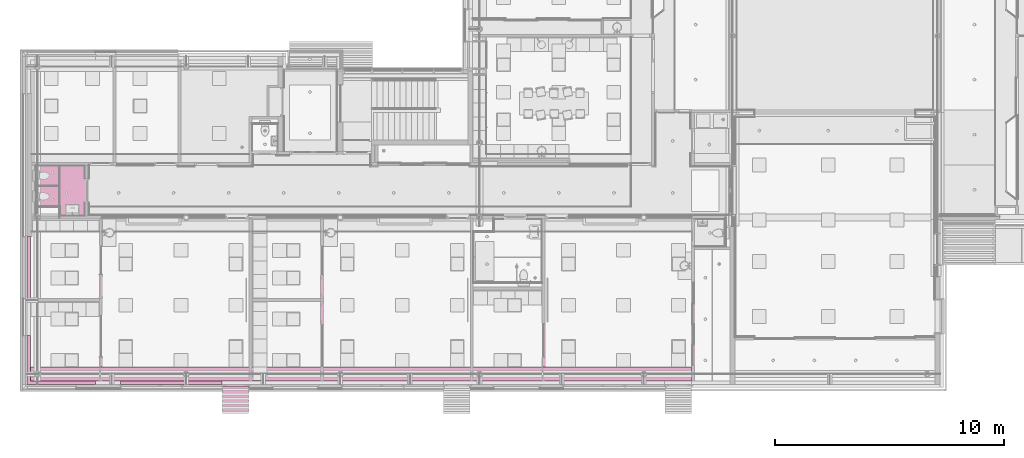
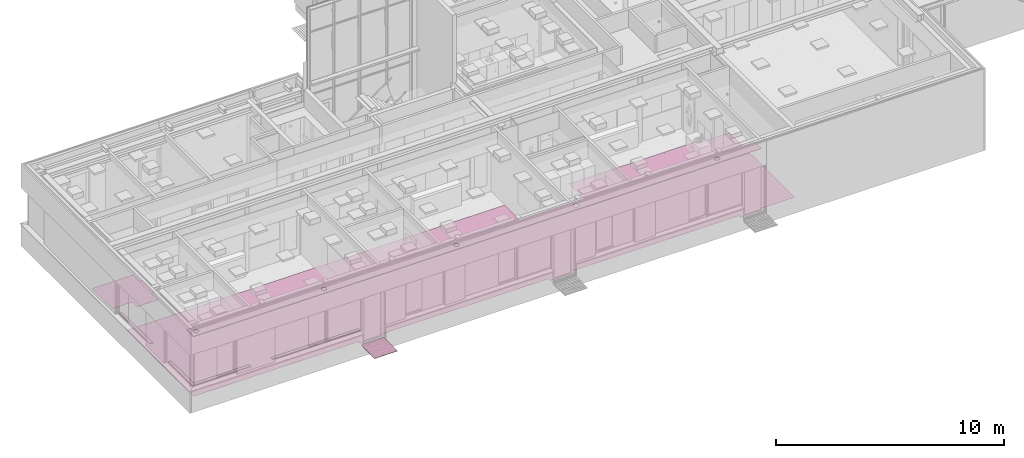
# One storey, part 313 of 347: 7 furnishings.
"""IFC2X3 building model written with IfcOpenShell, lengths in millimetres."""

from ifc_helpers import new_model, entity, si_unit, converted_unit, derived_unit, money_unit, direction, frame, origin_with_axes, place, context, subcontext, project, spatial, faceted_brep, material, type_object, element, save


model = new_model("IFC2X3")

# Units and contexts
model_context = context("Model", 3, precision=0.01, world=origin_with_axes(), true_north=direction((0.0, 1.0)))
plan_context = context("Plan", 3, precision=0.01, world=origin_with_axes(), true_north=direction((0.0, 1.0)))
body_context = subcontext(model_context, "Body", "Model", "MODEL_VIEW")
ifc_project = project(units=[si_unit("LENGTHUNIT", "METRE", prefix="MILLI"), si_unit("AREAUNIT", "SQUARE_METRE"), si_unit("VOLUMEUNIT", "CUBIC_METRE"), converted_unit("PLANEANGLEUNIT", "DEGREE", entity("IfcPlaneAngleMeasure", 0.0174532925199), si_unit("PLANEANGLEUNIT", "RADIAN"), dimensions=[0, 0, 0, 0, 0, 0, 0]), money_unit("EUR"), converted_unit("TIMEUNIT", "Year", entity("IfcTimeMeasure", 31556926.0), si_unit("TIMEUNIT", "SECOND"), dimensions=[0, 0, 1, 0, 0, 0, 0]), si_unit("MASSUNIT", "GRAM", prefix="KILO"), si_unit("THERMODYNAMICTEMPERATUREUNIT", "DEGREE_CELSIUS"), si_unit("LUMINOUSINTENSITYUNIT", "LUMEN"), si_unit("ENERGYUNIT", "JOULE", prefix="MEGA"), derived_unit("THERMALCONDUCTANCEUNIT", [(si_unit("POWERUNIT", "WATT"), 1), (si_unit("LENGTHUNIT", "METRE"), -1), (si_unit("THERMODYNAMICTEMPERATUREUNIT", "KELVIN"), -1)]), derived_unit("SPECIFICHEATCAPACITYUNIT", [(si_unit("ENERGYUNIT", "JOULE"), 1), (si_unit("MASSUNIT", "GRAM", prefix="KILO"), -1), (si_unit("THERMODYNAMICTEMPERATUREUNIT", "KELVIN"), -1)]), derived_unit("MASSDENSITYUNIT", [(si_unit("MASSUNIT", "GRAM", prefix="KILO"), 1), (si_unit("VOLUMEUNIT", "CUBIC_METRE"), -1)])], contexts=[model_context, plan_context])

# Site, building, storey
site_placement = place(None, origin_with_axes())
site = spatial("IfcSite", under=ifc_project, at=site_placement, Name="Site", CompositionType="ELEMENT")
building_placement = place(site_placement, origin_with_axes())
building = spatial("IfcBuilding", under=site, at=building_placement, Name="Naam gebouw", CompositionType="ELEMENT")
storey_placement = place(building_placement, origin_with_axes())
storey = spatial("IfcBuildingStorey", under=building, at=storey_placement, Name="begane grond", CompositionType="ELEMENT", Elevation=0.0)

# Furnishings
ifc_material_1 = material(Name="ALG - LICHTE SCHEIDINGSWAND")
furniture_type_1 = type_object("IfcFurnitureType", Name="44 koof plaf 50", AssemblyPlace="NOTDEFINED")
furnishing_1_placement = place(storey_placement, frame((4999.99997201, 4999.99997201, 3200.0), z_axis=(0.0, 0.0, 1.0), x_axis=(1.0, 0.0, 0.0)))
element("IfcFurnishingElement", 1, at=furnishing_1_placement, inside=storey, type_object=furniture_type_1, material=ifc_material_1, Name="72_75 vaste inrichting", ObjectType="SHELF", context=body_context, shape_type="Brep", body=[
    faceted_brep([(28825.000028, 600.0, 0.0), (28825.000028, 0.0, 0.0), (0.0, 0.0, 0.0), (0.0, 600.0, 0.0), (19670.5789267, 223.778399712, 0.0), (19685.1434721, 246.957740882, 0.0), (19694.1849653, 272.796843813, 0.0), (19697.250028, 300.00002799, 0.0), (19694.1849653, 327.203212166, 0.0), (19685.1434721, 353.042315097, 0.0), (19670.5789267, 376.221656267, 0.0), (19651.2216563, 395.578926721, 0.0), (19628.0423151, 410.143472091, 0.0), (19602.2032122, 419.184965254, 0.0), (19575.000028, 422.25002799, 0.0), (19547.7968438, 419.184965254, 0.0), (19521.9577409, 410.143472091, 0.0), (19498.7783997, 395.578926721, 0.0), (19479.4211293, 376.221656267, 0.0), (19464.8565839, 353.042315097, 0.0), (19455.8150907, 327.203212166, 0.0), (19452.750028, 300.00002799, 0.0), (19455.8150907, 272.796843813, 0.0), (19464.8565839, 246.957740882, 0.0), (19479.4211293, 223.778399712, 0.0), (19498.7783997, 204.421129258, 0.0), (19521.9577409, 189.856583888, 0.0), (19547.7968438, 180.815090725, 0.0), (19575.000028, 177.75002799, 0.0), (19602.2032122, 180.815090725, 0.0), (19628.0423151, 189.856583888, 0.0), (19651.2216563, 204.421129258, 0.0), (26833.0789267, 223.778399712, 0.0), (26847.6434721, 246.957740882, 0.0), (26856.6849653, 272.796843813, 0.0), (26859.750028, 300.00002799, 0.0), (26856.6849653, 327.203212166, 0.0), (26847.6434721, 353.042315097, 0.0), (26833.0789267, 376.221656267, 0.0), (26813.7216563, 395.578926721, 0.0), (26790.5423151, 410.143472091, 0.0), (26764.7032122, 419.184965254, 0.0), (26737.500028, 422.25002799, 0.0), (26710.2968438, 419.184965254, 0.0), (26684.4577409, 410.143472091, 0.0), (26661.2783997, 395.578926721, 0.0), (26641.9211293, 376.221656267, 0.0), (26627.3565839, 353.042315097, 0.0), (26618.3150907, 327.203212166, 0.0), (26615.250028, 300.00002799, 0.0), (26618.3150907, 272.796843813, 0.0), (26627.3565839, 246.957740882, 0.0), (26641.9211293, 223.778399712, 0.0), (26661.2783997, 204.421129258, 0.0), (26684.4577409, 189.856583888, 0.0), (26710.2968438, 180.815090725, 0.0), (26737.500028, 177.75002799, 0.0), (26764.7032122, 180.815090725, 0.0), (26790.5423151, 189.856583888, 0.0), (26813.7216563, 204.421129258, 0.0), (13600.5789267, 223.778399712, 0.0), (13615.1434721, 246.957740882, 0.0), (13624.1849653, 272.796843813, 0.0), (13627.250028, 300.00002799, 0.0), (13624.1849653, 327.203212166, 0.0), (13615.1434721, 353.042315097, 0.0), (13600.5789267, 376.221656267, 0.0), (13581.2216563, 395.578926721, 0.0), (13558.0423151, 410.143472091, 0.0), (13532.2032122, 419.184965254, 0.0), (13505.000028, 422.25002799, 0.0), (13477.7968438, 419.184965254, 0.0), (13451.9577409, 410.143472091, 0.0), (13428.7783997, 395.578926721, 0.0), (13409.4211293, 376.221656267, 0.0), (13394.8565839, 353.042315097, 0.0), (13385.8150907, 327.203212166, 0.0), (13382.750028, 300.00002799, 0.0), (13385.8150907, 272.796843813, 0.0), (13394.8565839, 246.957740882, 0.0), (13409.4211293, 223.778399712, 0.0), (13428.7783997, 204.421129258, 0.0), (13451.9577409, 189.856583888, 0.0), (13477.7968438, 180.815090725, 0.0), (13505.000028, 177.75002799, 0.0), (13532.2032122, 180.815090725, 0.0), (13558.0423151, 189.856583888, 0.0), (13581.2216563, 204.421129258, 0.0), (6883.07892672, 223.778399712, 0.0), (6897.64347209, 246.957740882, 0.0), (6906.68496525, 272.796843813, 0.0), (6909.75002799, 300.00002799, 0.0), (6906.68496525, 327.203212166, 0.0), (6897.64347209, 353.042315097, 0.0), (6883.07892672, 376.221656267, 0.0), (6863.72165627, 395.578926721, 0.0), (6840.5423151, 410.143472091, 0.0), (6814.70321217, 419.184965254, 0.0), (6787.50002799, 422.25002799, 0.0), (6760.29684381, 419.184965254, 0.0), (6734.45774088, 410.143472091, 0.0), (6711.27839971, 395.578926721, 0.0), (6691.92112926, 376.221656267, 0.0), (6677.35658389, 353.042315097, 0.0), (6668.31509073, 327.203212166, 0.0), (6665.25002799, 300.00002799, 0.0), (6668.31509073, 272.796843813, 0.0), (6677.35658389, 246.957740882, 0.0), (6691.92112926, 223.778399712, 0.0), (6711.27839971, 204.421129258, 0.0), (6734.45774088, 189.856583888, 0.0), (6760.29684381, 180.815090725, 0.0), (6787.50002799, 177.75002799, 0.0), (6814.70321217, 180.815090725, 0.0), (6840.5423151, 189.856583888, 0.0), (6863.72165627, 204.421129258, 0.0), (395.578926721, 223.778399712, 0.0), (410.143472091, 246.957740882, 0.0), (419.184965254, 272.796843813, 0.0), (422.25002799, 300.00002799, 0.0), (419.184965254, 327.203212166, 0.0), (410.143472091, 353.042315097, 0.0), (395.578926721, 376.221656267, 0.0), (376.221656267, 395.578926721, 0.0), (353.042315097, 410.143472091, 0.0), (327.203212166, 419.184965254, 0.0), (300.00002799, 422.25002799, 0.0), (272.796843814, 419.184965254, 0.0), (246.957740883, 410.143472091, 0.0), (223.778399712, 395.578926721, 0.0), (204.421129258, 376.221656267, 0.0), (189.856583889, 353.042315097, 0.0), (180.815090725, 327.203212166, 0.0), (177.75002799, 300.00002799, 0.0), (180.815090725, 272.796843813, 0.0), (189.856583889, 246.957740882, 0.0), (204.421129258, 223.778399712, 0.0), (223.778399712, 204.421129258, 0.0), (246.957740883, 189.856583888, 0.0), (272.796843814, 180.815090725, 0.0), (300.00002799, 177.75002799, 0.0), (327.203212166, 180.815090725, 0.0), (353.042315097, 189.856583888, 0.0), (376.221656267, 204.421129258, 0.0), (28825.000028, 600.0, 12.0), (28825.000028, 0.0, 12.0), (0.0, 0.0, 12.0), (0.0, 600.0, 12.0), (19670.5789267, 223.778399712, 12.0), (19685.1434721, 246.957740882, 12.0), (19694.1849653, 272.796843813, 12.0), (19697.250028, 300.00002799, 12.0), (19694.1849653, 327.203212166, 12.0), (19685.1434721, 353.042315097, 12.0), (19670.5789267, 376.221656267, 12.0), (19651.2216563, 395.578926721, 12.0), (19628.0423151, 410.143472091, 12.0), (19602.2032122, 419.184965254, 12.0), (19575.000028, 422.25002799, 12.0), (19547.7968438, 419.184965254, 12.0), (19521.9577409, 410.143472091, 12.0), (19498.7783997, 395.578926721, 12.0), (19479.4211293, 376.221656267, 12.0), (19464.8565839, 353.042315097, 12.0), (19455.8150907, 327.203212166, 12.0), (19452.750028, 300.00002799, 12.0), (19455.8150907, 272.796843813, 12.0), (19464.8565839, 246.957740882, 12.0), (19479.4211293, 223.778399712, 12.0), (19498.7783997, 204.421129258, 12.0), (19521.9577409, 189.856583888, 12.0), (19547.7968438, 180.815090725, 12.0), (19575.000028, 177.75002799, 12.0), (19602.2032122, 180.815090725, 12.0), (19628.0423151, 189.856583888, 12.0), (19651.2216563, 204.421129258, 12.0), (26833.0789267, 223.778399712, 12.0), (26847.6434721, 246.957740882, 12.0), (26856.6849653, 272.796843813, 12.0), (26859.750028, 300.00002799, 12.0), (26856.6849653, 327.203212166, 12.0), (26847.6434721, 353.042315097, 12.0), (26833.0789267, 376.221656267, 12.0), (26813.7216563, 395.578926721, 12.0), (26790.5423151, 410.143472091, 12.0), (26764.7032122, 419.184965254, 12.0), (26737.500028, 422.25002799, 12.0), (26710.2968438, 419.184965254, 12.0), (26684.4577409, 410.143472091, 12.0), (26661.2783997, 395.578926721, 12.0), (26641.9211293, 376.221656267, 12.0), (26627.3565839, 353.042315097, 12.0), (26618.3150907, 327.203212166, 12.0), (26615.250028, 300.00002799, 12.0), (26618.3150907, 272.796843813, 12.0), (26627.3565839, 246.957740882, 12.0), (26641.9211293, 223.778399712, 12.0), (26661.2783997, 204.421129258, 12.0), (26684.4577409, 189.856583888, 12.0), (26710.2968438, 180.815090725, 12.0), (26737.500028, 177.75002799, 12.0), (26764.7032122, 180.815090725, 12.0), (26790.5423151, 189.856583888, 12.0), (26813.7216563, 204.421129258, 12.0), (13600.5789267, 223.778399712, 12.0), (13615.1434721, 246.957740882, 12.0), (13624.1849653, 272.796843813, 12.0), (13627.250028, 300.00002799, 12.0), (13624.1849653, 327.203212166, 12.0), (13615.1434721, 353.042315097, 12.0), (13600.5789267, 376.221656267, 12.0), (13581.2216563, 395.578926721, 12.0), (13558.0423151, 410.143472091, 12.0), (13532.2032122, 419.184965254, 12.0), (13505.000028, 422.25002799, 12.0), (13477.7968438, 419.184965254, 12.0), (13451.9577409, 410.143472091, 12.0), (13428.7783997, 395.578926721, 12.0), (13409.4211293, 376.221656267, 12.0), (13394.8565839, 353.042315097, 12.0), (13385.8150907, 327.203212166, 12.0), (13382.750028, 300.00002799, 12.0), (13385.8150907, 272.796843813, 12.0), (13394.8565839, 246.957740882, 12.0), (13409.4211293, 223.778399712, 12.0), (13428.7783997, 204.421129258, 12.0), (13451.9577409, 189.856583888, 12.0), (13477.7968438, 180.815090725, 12.0), (13505.000028, 177.75002799, 12.0), (13532.2032122, 180.815090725, 12.0), (13558.0423151, 189.856583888, 12.0), (13581.2216563, 204.421129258, 12.0), (6883.07892672, 223.778399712, 12.0), (6897.64347209, 246.957740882, 12.0), (6906.68496525, 272.796843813, 12.0), (6909.75002799, 300.00002799, 12.0), (6906.68496525, 327.203212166, 12.0), (6897.64347209, 353.042315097, 12.0), (6883.07892672, 376.221656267, 12.0), (6863.72165627, 395.578926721, 12.0), (6840.5423151, 410.143472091, 12.0), (6814.70321217, 419.184965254, 12.0), (6787.50002799, 422.25002799, 12.0), (6760.29684381, 419.184965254, 12.0), (6734.45774088, 410.143472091, 12.0), (6711.27839971, 395.578926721, 12.0), (6691.92112926, 376.221656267, 12.0), (6677.35658389, 353.042315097, 12.0), (6668.31509073, 327.203212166, 12.0), (6665.25002799, 300.00002799, 12.0), (6668.31509073, 272.796843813, 12.0), (6677.35658389, 246.957740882, 12.0), (6691.92112926, 223.778399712, 12.0), (6711.27839971, 204.421129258, 12.0), (6734.45774088, 189.856583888, 12.0), (6760.29684381, 180.815090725, 12.0), (6787.50002799, 177.75002799, 12.0), (6814.70321217, 180.815090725, 12.0), (6840.5423151, 189.856583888, 12.0), (6863.72165627, 204.421129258, 12.0), (395.578926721, 223.778399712, 12.0), (410.143472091, 246.957740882, 12.0), (419.184965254, 272.796843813, 12.0), (422.25002799, 300.00002799, 12.0), (419.184965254, 327.203212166, 12.0), (410.143472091, 353.042315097, 12.0), (395.578926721, 376.221656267, 12.0), (376.221656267, 395.578926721, 12.0), (353.042315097, 410.143472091, 12.0), (327.203212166, 419.184965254, 12.0), (300.00002799, 422.25002799, 12.0), (272.796843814, 419.184965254, 12.0), (246.957740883, 410.143472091, 12.0), (223.778399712, 395.578926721, 12.0), (204.421129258, 376.221656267, 12.0), (189.856583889, 353.042315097, 12.0), (180.815090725, 327.203212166, 12.0), (177.75002799, 300.00002799, 12.0), (180.815090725, 272.796843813, 12.0), (189.856583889, 246.957740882, 12.0), (204.421129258, 223.778399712, 12.0), (223.778399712, 204.421129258, 12.0), (246.957740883, 189.856583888, 12.0), (272.796843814, 180.815090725, 12.0), (300.00002799, 177.75002799, 12.0), (327.203212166, 180.815090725, 12.0), (353.042315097, 189.856583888, 12.0), (376.221656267, 204.421129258, 12.0)], [[[0, 1, 2, 3], [4, 5, 6, 7, 8, 9, 10, 11, 12, 13, 14, 15, 16, 17, 18, 19, 20, 21, 22, 23, 24, 25, 26, 27, 28, 29, 30, 31], [32, 33, 34, 35, 36, 37, 38, 39, 40, 41, 42, 43, 44, 45, 46, 47, 48, 49, 50, 51, 52, 53, 54, 55, 56, 57, 58, 59], [60, 61, 62, 63, 64, 65, 66, 67, 68, 69, 70, 71, 72, 73, 74, 75, 76, 77, 78, 79, 80, 81, 82, 83, 84, 85, 86, 87], [88, 89, 90, 91, 92, 93, 94, 95, 96, 97, 98, 99, 100, 101, 102, 103, 104, 105, 106, 107, 108, 109, 110, 111, 112, 113, 114, 115], [116, 117, 118, 119, 120, 121, 122, 123, 124, 125, 126, 127, 128, 129, 130, 131, 132, 133, 134, 135, 136, 137, 138, 139, 140, 141, 142, 143]], [[144, 145, 1, 0]], [[145, 146, 2, 1]], [[146, 147, 3, 2]], [[147, 144, 0, 3]], [[4, 148, 149, 5]], [[5, 149, 150, 6]], [[6, 150, 151, 7]], [[7, 151, 152, 8]], [[8, 152, 153, 9]], [[9, 153, 154, 10]], [[10, 154, 155, 11]], [[11, 155, 156, 12]], [[12, 156, 157, 13]], [[13, 157, 158, 14]], [[14, 158, 159, 15]], [[15, 159, 160, 16]], [[16, 160, 161, 17]], [[17, 161, 162, 18]], [[18, 162, 163, 19]], [[19, 163, 164, 20]], [[20, 164, 165, 21]], [[21, 165, 166, 22]], [[22, 166, 167, 23]], [[23, 167, 168, 24]], [[24, 168, 169, 25]], [[25, 169, 170, 26]], [[26, 170, 171, 27]], [[27, 171, 172, 28]], [[28, 172, 173, 29]], [[29, 173, 174, 30]], [[30, 174, 175, 31]], [[31, 175, 148, 4]], [[32, 176, 177, 33]], [[33, 177, 178, 34]], [[34, 178, 179, 35]], [[35, 179, 180, 36]], [[36, 180, 181, 37]], [[37, 181, 182, 38]], [[38, 182, 183, 39]], [[39, 183, 184, 40]], [[40, 184, 185, 41]], [[41, 185, 186, 42]], [[42, 186, 187, 43]], [[43, 187, 188, 44]], [[44, 188, 189, 45]], [[45, 189, 190, 46]], [[46, 190, 191, 47]], [[47, 191, 192, 48]], [[48, 192, 193, 49]], [[49, 193, 194, 50]], [[50, 194, 195, 51]], [[51, 195, 196, 52]], [[52, 196, 197, 53]], [[53, 197, 198, 54]], [[54, 198, 199, 55]], [[55, 199, 200, 56]], [[56, 200, 201, 57]], [[57, 201, 202, 58]], [[58, 202, 203, 59]], [[59, 203, 176, 32]], [[60, 204, 205, 61]], [[61, 205, 206, 62]], [[62, 206, 207, 63]], [[63, 207, 208, 64]], [[64, 208, 209, 65]], [[65, 209, 210, 66]], [[66, 210, 211, 67]], [[67, 211, 212, 68]], [[68, 212, 213, 69]], [[69, 213, 214, 70]], [[70, 214, 215, 71]], [[71, 215, 216, 72]], [[72, 216, 217, 73]], [[73, 217, 218, 74]], [[74, 218, 219, 75]], [[75, 219, 220, 76]], [[76, 220, 221, 77]], [[77, 221, 222, 78]], [[78, 222, 223, 79]], [[79, 223, 224, 80]], [[80, 224, 225, 81]], [[81, 225, 226, 82]], [[82, 226, 227, 83]], [[83, 227, 228, 84]], [[84, 228, 229, 85]], [[85, 229, 230, 86]], [[86, 230, 231, 87]], [[87, 231, 204, 60]], [[88, 232, 233, 89]], [[89, 233, 234, 90]], [[90, 234, 235, 91]], [[91, 235, 236, 92]], [[92, 236, 237, 93]], [[93, 237, 238, 94]], [[94, 238, 239, 95]], [[95, 239, 240, 96]], [[96, 240, 241, 97]], [[97, 241, 242, 98]], [[98, 242, 243, 99]], [[99, 243, 244, 100]], [[100, 244, 245, 101]], [[101, 245, 246, 102]], [[102, 246, 247, 103]], [[103, 247, 248, 104]], [[104, 248, 249, 105]], [[105, 249, 250, 106]], [[106, 250, 251, 107]], [[107, 251, 252, 108]], [[108, 252, 253, 109]], [[109, 253, 254, 110]], [[110, 254, 255, 111]], [[111, 255, 256, 112]], [[112, 256, 257, 113]], [[113, 257, 258, 114]], [[114, 258, 259, 115]], [[115, 259, 232, 88]], [[116, 260, 261, 117]], [[117, 261, 262, 118]], [[118, 262, 263, 119]], [[119, 263, 264, 120]], [[120, 264, 265, 121]], [[121, 265, 266, 122]], [[122, 266, 267, 123]], [[123, 267, 268, 124]], [[124, 268, 269, 125]], [[125, 269, 270, 126]], [[126, 270, 271, 127]], [[127, 271, 272, 128]], [[128, 272, 273, 129]], [[129, 273, 274, 130]], [[130, 274, 275, 131]], [[131, 275, 276, 132]], [[132, 276, 277, 133]], [[133, 277, 278, 134]], [[134, 278, 279, 135]], [[135, 279, 280, 136]], [[136, 280, 281, 137]], [[137, 281, 282, 138]], [[138, 282, 283, 139]], [[139, 283, 284, 140]], [[140, 284, 285, 141]], [[141, 285, 286, 142]], [[142, 286, 287, 143]], [[143, 287, 260, 116]], [[144, 147, 146, 145], [154, 153, 152, 151, 150, 149, 148, 175, 174, 173, 172, 171, 170, 169, 168, 167, 166, 165, 164, 163, 162, 161, 160, 159, 158, 157, 156, 155], [182, 181, 180, 179, 178, 177, 176, 203, 202, 201, 200, 199, 198, 197, 196, 195, 194, 193, 192, 191, 190, 189, 188, 187, 186, 185, 184, 183], [210, 209, 208, 207, 206, 205, 204, 231, 230, 229, 228, 227, 226, 225, 224, 223, 222, 221, 220, 219, 218, 217, 216, 215, 214, 213, 212, 211], [238, 237, 236, 235, 234, 233, 232, 259, 258, 257, 256, 255, 254, 253, 252, 251, 250, 249, 248, 247, 246, 245, 244, 243, 242, 241, 240, 239], [266, 265, 264, 263, 262, 261, 260, 287, 286, 285, 284, 283, 282, 281, 280, 279, 278, 277, 276, 275, 274, 273, 272, 271, 270, 269, 268, 267]]]),
])
ifc_material_2 = material(Name="43 fresco Barbados 3858")
furniture_type_2 = type_object("IfcFurnitureType", Name="43 fresco Barbados 3858 2", AssemblyPlace="NOTDEFINED")
furnishing_2_placement = place(storey_placement, frame((5000.0, 10862.5, 0.0), z_axis=(0.0, 0.0, 1.0), x_axis=(1.0, 0.0, 0.0)))
element("IfcFurnishingElement", 2, at=furnishing_2_placement, inside=storey, type_object=furniture_type_2, material=ifc_material_2, Name="72_43 marmoleum", ObjectType="SHELF", context=body_context, shape_type="Brep", body=[
    faceted_brep([(0.0, 0.0, 2.0), (0.0, 0.0, 0.0), (0.0, -5862.5, 0.0), (0.0, -5862.5, 2.0), (19175.0, 0.0, 2.0), (19175.0, 0.0, 0.0), (19175.0, -1897.5, 0.0), (22425.0, -1897.5, 0.0), (22425.0, 0.0, 0.0), (28825.0, 0.0, 0.0), (28825.0, -137.5, 0.0), (30495.0, -137.5, 0.0), (30495.0, -5862.5, 0.0), (28825.0, -5862.5, 0.0), (28825.0, -6012.49997945, 0.0), (27647.4504524, -6012.49997945, 0.0), (27647.4504524, -5862.5, 0.0), (19175.0, -5862.5, 0.0), (19175.0, -6012.49997201, 0.0), (17998.0, -6012.49997201, 0.0), (17998.0, -5862.5, 0.0), (9525.0, -5862.5, 0.0), (9525.0, -6012.5, 0.0), (8348.0, -6012.5, 0.0), (8348.0, -5862.5, 0.0), (8348.0, -5862.5, 2.0), (8348.0, -6012.5, 2.0), (9525.0, -6012.5, 2.0), (9525.0, -5862.5, 2.0), (17998.0, -5862.5, 2.0), (17998.0, -6012.49997201, 2.0), (19175.0, -6012.49997201, 2.0), (19175.0, -5862.5, 2.0), (27647.4504524, -5862.5, 2.0), (27647.4504524, -6012.49997945, 2.0), (28825.0, -6012.49997945, 2.0), (28825.0, -5862.5, 2.0), (30495.0, -5862.5, 2.0), (30495.0, -137.5, 2.0), (28825.0, -137.5, 2.0), (28825.0, 0.0, 2.0), (22425.0, 0.0, 2.0), (22425.0, -1897.5, 2.0), (19175.0, -1897.5, 2.0)], [[[0, 1, 2, 3]], [[4, 5, 1, 0]], [[2, 1, 5, 6, 7, 8, 9, 10, 11, 12, 13, 14, 15, 16, 17, 18, 19, 20, 21, 22, 23, 24]], [[3, 2, 24, 25]], [[4, 0, 3, 25, 26, 27, 28, 29, 30, 31, 32, 33, 34, 35, 36, 37, 38, 39, 40, 41, 42, 43]], [[43, 6, 5, 4]], [[42, 7, 6, 43]], [[41, 8, 7, 42]], [[40, 9, 8, 41]], [[39, 10, 9, 40]], [[38, 11, 10, 39]], [[37, 12, 11, 38]], [[36, 13, 12, 37]], [[35, 14, 13, 36]], [[34, 15, 14, 35]], [[33, 16, 15, 34]], [[32, 17, 16, 33]], [[31, 18, 17, 32]], [[30, 19, 18, 31]], [[29, 20, 19, 30]], [[28, 21, 20, 29]], [[27, 22, 21, 28]], [[26, 23, 22, 27]], [[25, 24, 23, 26]]]),
])
ifc_material_3 = material(Name="42 vensterbank")
furniture_type_3 = type_object("IfcFurnitureType", Name="42 vensterbank 20", AssemblyPlace="NOTDEFINED")
furnishing_3_placement = place(storey_placement, frame((4849.9972598, 8590.0, 720.0), z_axis=(0.0, 0.0, 1.0), x_axis=(1.0, 0.0, 0.0)))
element("IfcFurnishingElement", 3, at=furnishing_3_placement, inside=storey, type_object=furniture_type_3, material=ifc_material_3, Name="72_73 vaste inrichting", ObjectType="SHELF", context=body_context, shape_type="Brep", body=[
    faceted_brep([(0.0, 0.0, 0.0), (0.0, 0.0, -20.0), (150.002712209, 0.0, -20.0), (150.002712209, 0.0, 0.0), (0.0, 2700.0, 0.0), (0.0, 2700.0, -20.0), (150.002712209, 2700.0, -20.0), (150.002712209, 2700.0, 0.0)], [[[0, 1, 2, 3]], [[4, 5, 1, 0]], [[2, 1, 5, 6]], [[3, 2, 6, 7]], [[4, 0, 3, 7]], [[7, 6, 5, 4]]]),
])
furnishing_4_placement = place(storey_placement, frame((4850.0, 6975.00002887, 720.0), z_axis=(0.0, 0.0, 1.0), x_axis=(1.0, 0.0, 0.0)))
element("IfcFurnishingElement", 4, at=furnishing_4_placement, inside=storey, type_object=furniture_type_3, material=ifc_material_3, Name="72_73 vaste inrichting", ObjectType="SHELF", context=body_context, shape_type="Brep", body=[
    faceted_brep([(0.0, 0.0, 0.0), (0.0, 0.0, -20.0), (0.0, -2125.00000766, -20.0), (0.0, -2125.00000766, 0.0), (150.000017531, 0.0, 0.0), (150.000017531, 0.0, -20.0), (150.000017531, -1975.00002887, -20.0), (2975.00271367, -1975.00002887, -20.0), (2975.00271367, -2125.00000766, -20.0), (2975.00271367, -2125.00000766, 0.0), (2975.00271367, -1975.00002887, 0.0), (150.000017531, -1975.00002887, 0.0)], [[[0, 1, 2, 3]], [[4, 5, 1, 0]], [[2, 1, 5, 6, 7, 8]], [[3, 2, 8, 9]], [[4, 0, 3, 9, 10, 11]], [[11, 6, 5, 4]], [[10, 7, 6, 11]], [[9, 8, 7, 10]]]),
])
furnishing_5_placement = place(storey_placement, frame((13348.0, 5000.00000479, 720.0), z_axis=(0.0, 0.0, 1.0), x_axis=(1.0, 0.0, 0.0)))
element("IfcFurnishingElement", 5, at=furnishing_5_placement, inside=storey, type_object=furniture_type_3, material=ifc_material_3, Name="72_73 vaste inrichting", ObjectType="SHELF", context=body_context, shape_type="Brep", body=[
    faceted_brep([(0.0, 0.0, 0.0), (0.0, 0.0, -20.0), (-4422.99728633, 0.0, -20.0), (-4422.99728633, 0.0, 0.0), (0.0, -150.000004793, 0.0), (0.0, -150.000004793, -20.0), (-4422.99728633, -150.000004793, -20.0), (-4422.99728633, -150.000004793, 0.0)], [[[0, 1, 2, 3]], [[4, 5, 1, 0]], [[2, 1, 5, 6]], [[3, 2, 6, 7]], [[4, 0, 3, 7]], [[7, 6, 5, 4]]]),
])
ifc_material_4 = material(Name="Metaal - Aluminium")
furniture_type_4 = type_object("IfcFurnitureType", Name="Metaal - Aluminium 25", AssemblyPlace="NOTDEFINED")
furnishing_6_placement = place(storey_placement, frame((14512.0, 4778.00002055, -15.0), z_axis=(0.0, 0.0, 1.0), x_axis=(1.0, 0.0, 0.0)))
element("IfcFurnishingElement", 6, at=furnishing_6_placement, inside=storey, type_object=furniture_type_4, material=ifc_material_4, Name="72_43 schoonloop zone 1", ObjectType="SHELF", context=body_context, shape_type="Brep", body=[
    faceted_brep([(0.0, 0.0, 0.0), (0.0, 0.0, -25.0), (-1150.0, 0.0, -25.0), (-1150.0, 0.0, 0.0), (0.0, -1199.99997171, 0.0), (0.0, -1199.99997171, -25.0), (-1150.0, -1199.99997171, -25.0), (-1150.0, -1199.99997171, 0.0)], [[[0, 1, 2, 3]], [[4, 5, 1, 0]], [[2, 1, 5, 6]], [[3, 2, 6, 7]], [[4, 0, 3, 7]], [[7, 6, 5, 4]]]),
])
ifc_material_5 = material(Name="48 vloeivloer Bolidt")
furniture_type_5 = type_object("IfcFurnitureType", Name="48 vloeivloer Bolidt 2", AssemblyPlace="NOTDEFINED")
furnishing_7_placement = place(storey_placement, frame((5260.0, 12600.000029, 0.0), z_axis=(0.0, 0.0, 1.0), x_axis=(1.0, 0.0, 0.0)))
element("IfcFurnishingElement", 7, at=furnishing_7_placement, inside=storey, type_object=furniture_type_5, material=ifc_material_5, Name="72_43 vloeivloer", ObjectType="SHELF", context=body_context, shape_type="Brep", body=[
    faceted_brep([(0.0, 0.0, 2.0), (0.0, 0.0, 0.0), (1015.00003338, 0.0, 0.0), (1015.00003338, 0.0, 2.0), (0.0, 1799.99995708, 2.0), (0.0, 1799.99995708, 0.0), (2114.99999046, 1799.99995708, 0.0), (2114.99999046, 1225.7749851, 0.0), (2240.0, 1225.7749851, 0.0), (2240.0, 161.774985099, 0.0), (2114.99999046, 161.774985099, 0.0), (2114.99999046, -412.500021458, 0.0), (1015.00003338, -412.500021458, 0.0), (1015.00003338, -412.500021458, 2.0), (2114.99999046, -412.500021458, 2.0), (2114.99999046, 161.774985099, 2.0), (2240.0, 161.774985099, 2.0), (2240.0, 1225.7749851, 2.0), (2114.99999046, 1225.7749851, 2.0), (2114.99999046, 1799.99995708, 2.0)], [[[0, 1, 2, 3]], [[4, 5, 1, 0]], [[2, 1, 5, 6, 7, 8, 9, 10, 11, 12]], [[3, 2, 12, 13]], [[4, 0, 3, 13, 14, 15, 16, 17, 18, 19]], [[19, 6, 5, 4]], [[18, 7, 6, 19]], [[17, 8, 7, 18]], [[16, 9, 8, 17]], [[15, 10, 9, 16]], [[14, 11, 10, 15]], [[13, 12, 11, 14]]]),
])

save(model, "model.ifc")
